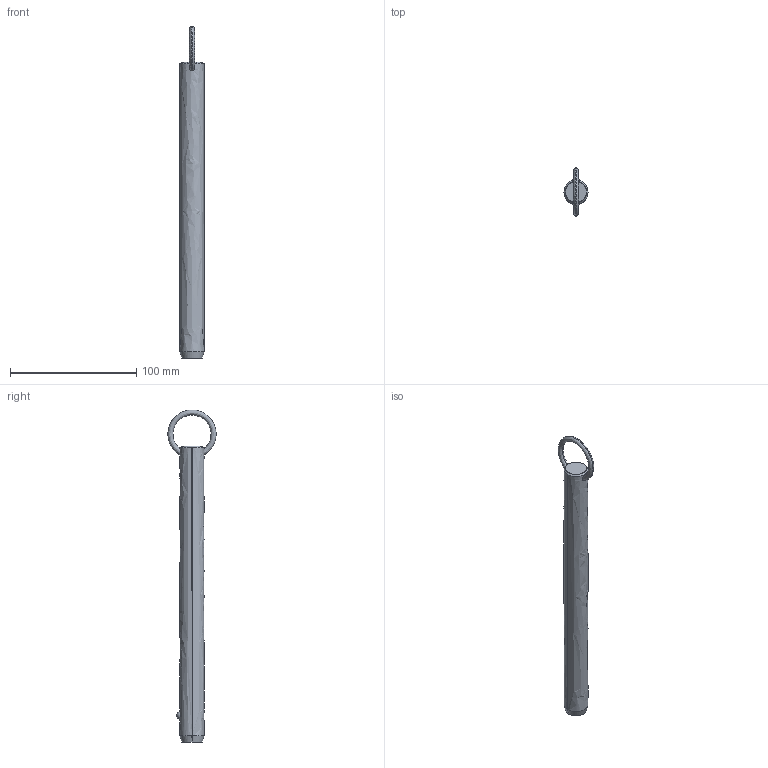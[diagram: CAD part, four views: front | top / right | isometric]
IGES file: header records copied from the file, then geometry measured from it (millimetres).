
Start section: SolidWorks IGES file using analytic representation for surfaces
Global section: file name: C:\Users\liam_\OneDrive\Documents\WORK\Work for WixRoyd\Job Files\J-00019 - Matt Davis CAD Checking\04. CAD Drawings\automotion20190605\P1250.2_v2\P1250.2_v2_20190729_IGES\P1250.075-790.igs; native system: SolidWorks 2017; preprocessor: SolidWorks 2017; author: liam_; date: 190730.000328; units: millimetre
Bounding box: 19 x 38.08 x 262.48 mm (x, y, z)
Surface area: 15494.4 mm2 (no closed solid volume)
Topology: 0 solids, 0 shells, 12 faces, 294 edges, 292 vertices
Faces by surface type: revolution 8, bspline 4
